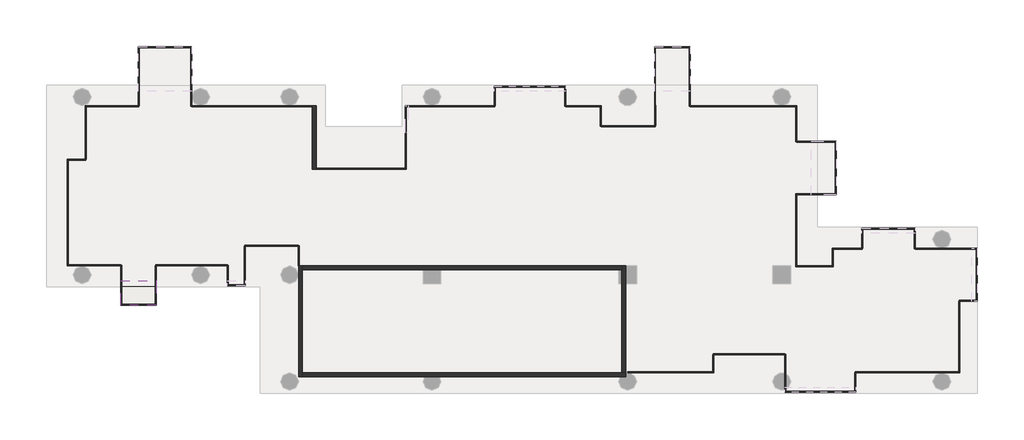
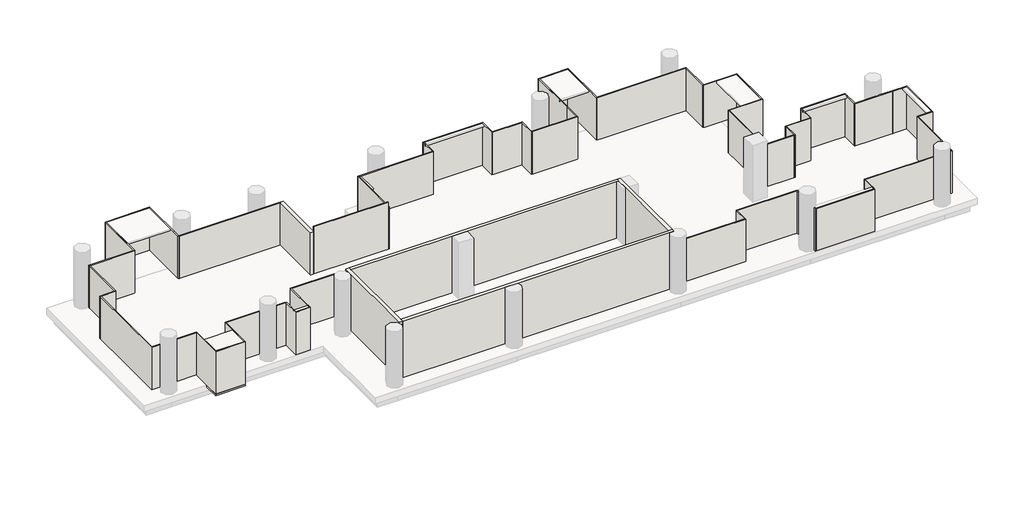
# One storey, part 1 of 2: 61 walls, 7 slabs.
"""IFC4 building model written with IfcOpenShell, lengths in millimetres."""

from ifc_helpers import new_model, si_unit, frame, origin, place, context, project, spatial, polyline, outline, extrude, faceted_brep, element, save

model = new_model("IFC4")

# Units and contexts
model_context = context("Model", 3, world=origin())
ifc_project = project(units=[si_unit("LENGTHUNIT", "METRE", prefix="MILLI")], contexts=[model_context])

# Site, building, storey
site = spatial("IfcSite", under=ifc_project)
building = spatial("IfcBuilding", under=site)
storey = spatial("IfcBuildingStorey", under=building, Name="TW-L 20", Elevation=71199.9999686)

# Slabs
placement = place(None, origin())
element("IfcSlab", 1, ObjectType="AJN-ARC-SLAB-10cm", at=placement, inside=storey, context=model_context, shape_type="SweptSolid", body=[
    extrude(outline(polyline([(105847.1743518, 28750.0), (104047.1743518, 28750.0), (104047.1743518, 29700.0), (105847.1743518, 29700.0), (105847.1743518, 28750.0)])), frame((0.0, 0.0, 71099.9999686), z_axis=(0.0, 0.0, 1.0), x_axis=(1.0, 0.0, 0.0)), (0.0, 0.0, 1.0), 100.0),
])
element("IfcSlab", 2, ObjectType="AJN-ARC-SLAB-10cm", at=placement, inside=storey, context=model_context, shape_type="SweptSolid", body=[
    extrude(outline(polyline([(105847.1743518, 28750.0), (104047.1743518, 28750.0), (104047.1743518, 30000.0), (105847.1743518, 30000.0), (105847.1743518, 28750.0)])), frame((0.0, 0.0, 73799.9999686), z_axis=(0.0, 0.0, 1.0), x_axis=(1.0, 0.0, 0.0)), (0.0, 0.0, 1.0), 100.0),
])
element("IfcSlab", 3, ObjectType="AJN-ARC-SLAB-10cm", at=placement, inside=storey, context=model_context, shape_type="SweptSolid", body=[
    extrude(outline(polyline([(110347.1743518, 29750.0), (109447.1743518, 29750.0), (109447.1743518, 30000.0), (110347.1743518, 30000.0), (110347.1743518, 29750.0)])), frame((0.0, 0.0, 73799.9999686), z_axis=(0.0, 0.0, 1.0), x_axis=(1.0, 0.0, 0.0)), (0.0, 0.0, 1.0), 100.0),
])
element("IfcSlab", 4, ObjectType="AJN-ARC-SLAB-10cm", at=placement, inside=storey, context=model_context, shape_type="SweptSolid", body=[
    extrude(outline(polyline([(110347.1743518, 29750.0), (109447.1743518, 29750.0), (109447.1743518, 30000.0), (110347.1743518, 30000.0), (110347.1743518, 29750.0)])), frame((0.0, 0.0, 73799.9999686), z_axis=(0.0, 0.0, 1.0), x_axis=(1.0, 0.0, 0.0)), (0.0, 0.0, 1.0), 100.0),
])
element("IfcSlab", 5, ObjectType="AJN-ARC-SLAB-10cm", at=placement, inside=storey, context=model_context, shape_type="SweptSolid", body=[
    extrude(outline(polyline([(110347.1743518, 29750.0), (109447.1743518, 29750.0), (109447.1743518, 30000.0), (110347.1743518, 30000.0), (110347.1743518, 29750.0)])), frame((0.0, 0.0, 73799.9999686), z_axis=(0.0, 0.0, 1.0), x_axis=(1.0, 0.0, 0.0)), (0.0, 0.0, 1.0), 100.0),
])
element("IfcSlab", 6, ObjectType="AJN-ARC-SLAB-10cm", at=placement, inside=storey, context=model_context, shape_type="SweptSolid", body=[
    extrude(outline(polyline([(110347.1743518, 29750.0), (109447.1743518, 29750.0), (109447.1743518, 30000.0), (110347.1743518, 30000.0), (110347.1743518, 29750.0)])), frame((0.0, 0.0, 73799.9999686), z_axis=(0.0, 0.0, 1.0), x_axis=(1.0, 0.0, 0.0)), (0.0, 0.0, 1.0), 100.0),
])
element("IfcSlab", 7, ObjectType="AJN-ARC-SLAB-10cm", at=placement, inside=storey, context=model_context, shape_type="SweptSolid", body=[
    extrude(outline(polyline([(110347.1743518, 29750.0), (109447.1743518, 29750.0), (109447.1743518, 30000.0), (110347.1743518, 30000.0), (110347.1743518, 29750.0)])), frame((0.0, 0.0, 73799.9999686), z_axis=(0.0, 0.0, 1.0), x_axis=(1.0, 0.0, 0.0)), (0.0, 0.0, 1.0), 100.0),
])

# Walls
element("IfcWall", 8, ObjectType="AJN-ARC-CONCRETE WALL-20cm", at=placement, inside=storey, context=model_context, shape_type="Brep", body=[
    faceted_brep([(113050.0, 30750.0, 74799.9999686), (113050.0, 30750.0, 71199.9999686), (113050.0, 25150.0, 71199.9999686), (113050.0, 25150.0, 74799.9999686), (113250.0, 30750.0, 71199.9999686), (113250.0, 30750.0, 74799.9999686), (113250.0, 30550.0, 74799.9999686), (113250.0, 25350.0, 74799.9999686), (113250.0, 25150.0, 74799.9999686), (113250.0, 25150.0, 71199.9999686), (113250.0, 25350.0, 71199.9999686), (113250.0, 30550.0, 71199.9999686), (113097.1743518, 30750.0, 71199.9999686)], [[[0, 1, 2, 3]], [[4, 5, 6, 7, 8, 9, 10, 11]], [[2, 1, 12, 4, 11, 10, 9]], [[0, 3, 8, 7, 6, 5]], [[3, 2, 9, 8]], [[0, 5, 4, 12, 1]]]),
])
element("IfcWall", 9, ObjectType="AJN-ARC-CONCRETE WALL-20cm", at=placement, inside=storey, context=model_context, shape_type="Brep", body=[
    faceted_brep([(113250.0, 25150.0, 71199.9999686), (119425.8342613, 25150.0, 71199.9999686), (120174.1657387, 25150.0, 71199.9999686), (129325.8342613, 25150.0, 71199.9999686), (129600.0, 25150.0, 71199.9999686), (129600.0, 25150.0, 74799.9999686), (129325.8342613, 25150.0, 74799.9999686), (120174.1657387, 25150.0, 74799.9999686), (119425.8342613, 25150.0, 74799.9999686), (113250.0, 25150.0, 74799.9999686), (113250.0, 25350.0, 71199.9999686), (113250.0, 25350.0, 74799.9999686), (129400.0, 25350.0, 74799.9999686), (129600.0, 25350.0, 74799.9999686), (129600.0, 25350.0, 71199.9999686), (129400.0, 25350.0, 71199.9999686), (129600.0, 25338.7482194, 71199.9999686), (129600.0, 25338.7482194, 74799.9999686)], [[[0, 1, 2, 3, 4, 5, 6, 7, 8, 9]], [[10, 11, 12, 13, 14, 15]], [[4, 3, 2, 1, 0, 10, 15, 14, 16]], [[9, 8, 7, 6, 5, 17, 13, 12, 11]], [[5, 4, 16, 14, 13, 17]], [[0, 9, 11, 10]]]),
])
element("IfcWall", 10, ObjectType="AJN-ARC-CONCRETE WALL-20cm", at=placement, inside=storey, context=model_context, shape_type="Brep", body=[
    faceted_brep([(129600.0, 25350.0, 71199.9999686), (129600.0, 29850.0, 71199.9999686), (129600.0, 30750.0, 71199.9999686), (129600.0, 30750.0, 74799.9999686), (129600.0, 29850.0, 74799.9999686), (129600.0, 25350.0, 74799.9999686), (129400.0, 25350.0, 71199.9999686), (129400.0, 25350.0, 74799.9999686), (129400.0, 29850.0, 74799.9999686), (129400.0, 30550.0, 74799.9999686), (129400.0, 30750.0, 74799.9999686), (129400.0, 30750.0, 71199.9999686), (129400.0, 30550.0, 71199.9999686), (129400.0, 29850.0, 71199.9999686)], [[[0, 1, 2, 3, 4, 5]], [[6, 7, 8, 9, 10, 11, 12, 13]], [[2, 1, 0, 6, 13, 12, 11]], [[5, 4, 3, 10, 9, 8, 7]], [[3, 2, 11, 10]], [[0, 5, 7, 6]]]),
])
element("IfcWall", 11, ObjectType="AJN-ARC-CONCRETE WALL-20cm", at=placement, inside=storey, context=model_context, shape_type="Brep", body=[
    faceted_brep([(129400.0, 30750.0, 71199.9999686), (113250.0, 30750.0, 71199.9999686), (113250.0, 30750.0, 74799.9999686), (129400.0, 30750.0, 74799.9999686), (129400.0, 30550.0, 71199.9999686), (129400.0, 30550.0, 74799.9999686), (129250.0, 30550.0, 74799.9999686), (120250.0, 30550.0, 74799.9999686), (119350.0, 30550.0, 74799.9999686), (113250.0, 30550.0, 74799.9999686), (113250.0, 30550.0, 71199.9999686), (119350.0, 30550.0, 71199.9999686), (120250.0, 30550.0, 71199.9999686), (129250.0, 30550.0, 71199.9999686)], [[[0, 1, 2, 3]], [[4, 5, 6, 7, 8, 9, 10, 11, 12, 13]], [[1, 0, 4, 13, 12, 11, 10]], [[3, 2, 9, 8, 7, 6, 5]], [[0, 3, 5, 4]], [[1, 10, 9, 2]]]),
])
element("IfcWall", 12, ObjectType="AJN-ARC-CONCRETE WALL-20cm", at=placement, inside=storey, context=model_context, shape_type="Brep", body=[
    faceted_brep([(113950.0, 35650.0, 71199.9999686), (113950.0, 38850.001152, 71199.9999686), (113950.0, 38850.001152, 73899.9999686), (113950.0, 35650.0, 73899.9999686), (113750.0, 35650.0, 71199.9999686), (113750.0, 35650.0, 73899.9999686), (113750.0, 38800.0011154, 73899.9999686), (113750.0, 38850.0011154, 73899.9999686), (113750.0, 38850.0011154, 71199.9999686), (113750.0, 38800.0011154, 71199.9999686)], [[[0, 1, 2, 3]], [[4, 5, 6, 7, 8, 9]], [[1, 0, 4, 9, 8]], [[3, 2, 7, 6, 5]], [[0, 3, 5, 4]], [[2, 1, 8, 7]]]),
])
element("IfcWall", 13, ObjectType="AJN-ARC-GLASS-50mm", at=placement, inside=storey, context=model_context, shape_type="SweptSolid", body=[
    extrude(outline(polyline([(107650.0, 38850.0), (113750.0, 38850.0011154), (113750.0, 38800.0011154), (107650.0000091, 38800.0), (107650.0, 38850.0)])), frame((0.0, 0.0, 71199.9999686), z_axis=(0.0, 0.0, 1.0), x_axis=(1.0, 0.0, 0.0)), (0.0, 0.0, 1.0), 2700.0),
])
element("IfcWall", 14, ObjectType="AJN-ARC-GLASS-50mm", at=placement, inside=storey, context=model_context, shape_type="Brep", body=[
    faceted_brep([(107650.0, 38824.9999954, 71199.9999686), (107650.0, 41850.0, 71199.9999686), (107650.0, 41850.0, 73899.9999686), (107650.0, 38824.9999954, 73899.9999686), (107600.0, 38824.9999954, 71199.9999686), (107600.0, 38824.9999954, 73899.9999686), (107600.0, 41800.0, 73899.9999686), (107600.0, 41850.0, 73899.9999686), (107600.0, 41850.0, 71199.9999686), (107600.0, 41800.0, 71199.9999686)], [[[0, 1, 2, 3]], [[4, 5, 6, 7, 8, 9]], [[1, 0, 4, 9, 8]], [[3, 2, 7, 6, 5]], [[0, 3, 5, 4]], [[2, 1, 8, 7]]]),
])
element("IfcWall", 15, ObjectType="AJN-ARC-GLASS-50mm", at=placement, inside=storey, context=model_context, shape_type="Brep", body=[
    faceted_brep([(107600.0, 41850.0, 71199.9999686), (104950.0, 41850.0, 71199.9999686), (104950.0, 41850.0, 73899.9999686), (107600.0, 41850.0, 73899.9999686), (107600.0, 41800.0, 71199.9999686), (107600.0, 41800.0, 73899.9999686), (105000.0, 41800.0, 73899.9999686), (104950.0, 41800.0, 73899.9999686), (104950.0, 41800.0, 71199.9999686), (105000.0, 41800.0, 71199.9999686)], [[[0, 1, 2, 3]], [[4, 5, 6, 7, 8, 9]], [[1, 0, 4, 9, 8]], [[3, 2, 7, 6, 5]], [[2, 1, 8, 7]], [[0, 3, 5, 4]]]),
])
element("IfcWall", 16, ObjectType="AJN-ARC-GLASS-50mm", at=placement, inside=storey, context=model_context, shape_type="SweptSolid", body=[
    extrude(outline(polyline([(104950.0, 38850.0), (104950.0, 41800.0), (105000.0, 41800.0), (105000.0, 38850.0), (104950.0, 38850.0)])), frame((0.0, 0.0, 71199.9999686), z_axis=(0.0, 0.0, 1.0), x_axis=(1.0, 0.0, 0.0)), (0.0, 0.0, 1.0), 2700.0),
])
element("IfcWall", 17, ObjectType="AJN-ARC-GLASS-50mm", at=placement, inside=storey, context=model_context, shape_type="Brep", body=[
    faceted_brep([(104975.000004, 38849.999996, 71199.9999686), (102250.0, 38850.0004316, 71199.9999686), (102250.0, 38850.0004316, 73899.9999686), (104975.000004, 38849.999996, 73899.9999686), (104974.999996, 38799.999996, 71199.9999686), (104974.999996, 38799.999996, 73899.9999686), (102300.0, 38800.0004237, 73899.9999686), (102250.0, 38800.0004316, 73899.9999686), (102250.0, 38800.0004316, 71199.9999686), (102300.0, 38800.0004237, 71199.9999686)], [[[0, 1, 2, 3]], [[4, 5, 6, 7, 8, 9]], [[1, 0, 4, 9, 8]], [[3, 2, 7, 6, 5]], [[0, 3, 5, 4]], [[2, 1, 8, 7]]]),
])
element("IfcWall", 18, ObjectType="AJN-ARC-GLASS-50mm", at=placement, inside=storey, context=model_context, shape_type="SweptSolid", body=[
    extrude(outline(polyline([(102250.0, 36150.0), (102250.0, 38800.0004316), (102300.0, 38800.0004237), (102300.0, 36150.0), (102250.0, 36150.0)])), frame((0.0, 0.0, 71199.9999686), z_axis=(0.0, 0.0, 1.0), x_axis=(1.0, 0.0, 0.0)), (0.0, 0.0, 1.0), 2700.0),
])
element("IfcWall", 19, ObjectType="AJN-ARC-GLASS-50mm", at=placement, inside=storey, context=model_context, shape_type="Brep", body=[
    faceted_brep([(102275.0, 36150.0, 71199.9999686), (101347.1743518, 36150.0, 71199.9999686), (101347.1743518, 36150.0, 73899.9999686), (102275.0, 36150.0, 73899.9999686), (102275.0, 36100.0, 71199.9999686), (102275.0, 36100.0, 73899.9999686), (101397.1743518, 36100.0, 73899.9999686), (101347.1743518, 36100.0, 73899.9999686), (101347.1743518, 36100.0, 71199.9999686), (101397.1743518, 36100.0, 71199.9999686)], [[[0, 1, 2, 3]], [[4, 5, 6, 7, 8, 9]], [[1, 0, 4, 9, 8]], [[3, 2, 7, 6, 5]], [[0, 3, 5, 4]], [[2, 1, 8, 7]]]),
])
element("IfcWall", 20, ObjectType="AJN-ARC-GLASS-50mm", at=placement, inside=storey, context=model_context, shape_type="Brep", body=[
    faceted_brep([(101347.1743518, 36100.0, 71199.9999686), (101347.1743518, 30750.0, 71199.9999686), (101347.1743518, 30750.0, 73899.9999686), (101347.1743518, 36100.0, 73899.9999686), (101397.1743518, 36100.0, 71199.9999686), (101397.1743518, 36100.0, 73899.9999686), (101397.1743518, 30800.0, 73899.9999686), (101397.1743518, 30750.0, 73899.9999686), (101397.1743518, 30750.0, 71199.9999686), (101397.1743518, 30800.0, 71199.9999686)], [[[0, 1, 2, 3]], [[4, 5, 6, 7, 8, 9]], [[1, 0, 4, 9, 8]], [[3, 2, 7, 6, 5]], [[2, 1, 8, 7]], [[0, 3, 5, 4]]]),
])
element("IfcWall", 21, ObjectType="AJN-ARC-GLASS-50mm", at=placement, inside=storey, context=model_context, shape_type="SweptSolid", body=[
    extrude(outline(polyline([(104047.1743518, 30750.0), (101397.1743518, 30750.0), (101397.1743518, 30800.0), (104047.1743518, 30800.0), (104047.1743518, 30750.0)])), frame((0.0, 0.0, 71199.9999686), z_axis=(0.0, 0.0, 1.0), x_axis=(1.0, 0.0, 0.0)), (0.0, 0.0, 1.0), 2700.0),
])
element("IfcWall", 22, ObjectType="AJN-ARC-GLASS-50mm", at=placement, inside=storey, context=model_context, shape_type="Brep", body=[
    faceted_brep([(104047.1743518, 30775.0, 71199.9999686), (104047.1743518, 28750.0, 71199.9999686), (104047.1743518, 28750.0, 73899.9999686), (104047.1743518, 30775.0, 73899.9999686), (104097.1743518, 30775.0, 71199.9999686), (104097.1743518, 30775.0, 73899.9999686), (104097.1743518, 28800.0, 73899.9999686), (104097.1743518, 28750.0, 73899.9999686), (104097.1743518, 28750.0, 71199.9999686), (104097.1743518, 28800.0, 71199.9999686)], [[[0, 1, 2, 3]], [[4, 5, 6, 7, 8, 9]], [[1, 0, 4, 9, 8]], [[3, 2, 7, 6, 5]], [[0, 3, 5, 4]], [[2, 1, 8, 7]]]),
])
element("IfcWall", 23, ObjectType="AJN-ARC-GLASS-50mm", at=placement, inside=storey, context=model_context, shape_type="Brep", body=[
    faceted_brep([(104097.1743518, 28750.0, 71199.9999686), (105847.1743518, 28750.0, 71199.9999686), (105847.1743518, 28750.0, 73899.9999686), (104097.1743518, 28750.0, 73899.9999686), (104097.1743518, 28800.0, 71199.9999686), (104097.1743518, 28800.0, 73899.9999686), (105797.1743518, 28800.0, 73899.9999686), (105847.1743518, 28800.0, 73899.9999686), (105847.1743518, 28800.0, 71199.9999686), (105797.1743518, 28800.0, 71199.9999686)], [[[0, 1, 2, 3]], [[4, 5, 6, 7, 8, 9]], [[1, 0, 4, 9, 8]], [[3, 2, 7, 6, 5]], [[2, 1, 8, 7]], [[0, 3, 5, 4]]]),
])
element("IfcWall", 24, ObjectType="AJN-ARC-GLASS-50mm", at=placement, inside=storey, context=model_context, shape_type="SweptSolid", body=[
    extrude(outline(polyline([(105847.1743518, 30750.0), (105847.1743518, 28800.0), (105797.1743518, 28800.0), (105797.1743518, 30750.0), (105847.1743518, 30750.0)])), frame((0.0, 0.0, 71199.9999686), z_axis=(0.0, 0.0, 1.0), x_axis=(1.0, 0.0, 0.0)), (0.0, 0.0, 1.0), 2700.0),
])
element("IfcWall", 25, ObjectType="AJN-ARC-GLASS-50mm", at=placement, inside=storey, context=model_context, shape_type="SweptSolid", body=[
    extrude(outline(polyline([(109447.1743518, 30750.0), (105822.1743518, 30750.0), (105822.1743518, 30800.0), (109447.1743518, 30800.0), (109447.1743518, 30750.0)])), frame((0.0, 0.0, 71199.9999686), z_axis=(0.0, 0.0, 1.0), x_axis=(1.0, 0.0, 0.0)), (0.0, 0.0, 1.0), 2700.0),
])
element("IfcWall", 26, ObjectType="AJN-ARC-GLASS-50mm", at=placement, inside=storey, context=model_context, shape_type="Brep", body=[
    faceted_brep([(109447.1743518, 30775.0, 71199.9999686), (109447.1743518, 29750.0, 71199.9999686), (109447.1743518, 29750.0, 73899.9999686), (109447.1743518, 30775.0, 73899.9999686), (109497.1743518, 30775.0, 71199.9999686), (109497.1743518, 30775.0, 73899.9999686), (109497.1743518, 29800.0, 73899.9999686), (109497.1743518, 29750.0, 73899.9999686), (109497.1743518, 29750.0, 71199.9999686), (109497.1743518, 29800.0, 71199.9999686)], [[[0, 1, 2, 3]], [[4, 5, 6, 7, 8, 9]], [[1, 0, 4, 9, 8]], [[3, 2, 7, 6, 5]], [[0, 3, 5, 4]], [[2, 1, 8, 7]]]),
])
element("IfcWall", 27, ObjectType="AJN-ARC-GLASS-50mm", at=placement, inside=storey, context=model_context, shape_type="Brep", body=[
    faceted_brep([(109497.1743518, 29750.0, 71199.9999686), (110347.1743518, 29750.0, 71199.9999686), (110347.1743518, 29750.0, 73899.9999686), (109497.1743518, 29750.0, 73899.9999686), (109497.1743518, 29800.0, 71199.9999686), (109497.1743518, 29800.0, 73899.9999686), (110297.1743518, 29800.0, 73899.9999686), (110347.1743518, 29800.0, 73899.9999686), (110347.1743518, 29800.0, 71199.9999686), (110297.1743518, 29800.0, 71199.9999686)], [[[0, 1, 2, 3]], [[4, 5, 6, 7, 8, 9]], [[1, 0, 4, 9, 8]], [[3, 2, 7, 6, 5]], [[2, 1, 8, 7]], [[0, 3, 5, 4]]]),
])
element("IfcWall", 28, ObjectType="AJN-ARC-GLASS-50mm", at=placement, inside=storey, context=model_context, shape_type="SweptSolid", body=[
    extrude(outline(polyline([(110347.1743518, 31750.0), (110347.1743518, 29800.0), (110297.1743518, 29800.0), (110297.1743518, 31750.0), (110347.1743518, 31750.0)])), frame((0.0, 0.0, 71199.9999686), z_axis=(0.0, 0.0, 1.0), x_axis=(1.0, 0.0, 0.0)), (0.0, 0.0, 1.0), 2700.0),
])
element("IfcWall", 29, ObjectType="AJN-ARC-GLASS-50mm", at=placement, inside=storey, context=model_context, shape_type="SweptSolid", body=[
    extrude(outline(polyline([(113047.1743518, 31750.0), (110322.1743518, 31750.0), (110322.1743518, 31800.0), (113047.1743518, 31800.0), (113047.1743518, 31750.0)])), frame((0.0, 0.0, 71199.9999686), z_axis=(0.0, 0.0, 1.0), x_axis=(1.0, 0.0, 0.0)), (0.0, 0.0, 1.0), 2700.0),
])
element("IfcWall", 30, ObjectType="AJN-ARC-GLASS-50mm", at=placement, inside=storey, context=model_context, shape_type="Brep", body=[
    faceted_brep([(113047.1743518, 31775.0, 71199.9999686), (113047.1743518, 30750.0, 71199.9999686), (113047.1743518, 30750.0, 73899.9999686), (113047.1743518, 31775.0, 73899.9999686), (113097.1743518, 31775.0, 71199.9999686), (113097.1743518, 31775.0, 73899.9999686), (113097.1743518, 30750.0, 73899.9999686), (113097.1743518, 30750.0, 71199.9999686), (113050.0, 30750.0, 71199.9999686)], [[[0, 1, 2, 3]], [[4, 5, 6, 7]], [[1, 0, 4, 7, 8]], [[3, 2, 6, 5]], [[0, 3, 5, 4]], [[2, 1, 8, 7, 6]]]),
])
element("IfcWall", 31, ObjectType="AJN-ARC-GLASS-50mm", at=placement, inside=storey, context=model_context, shape_type="Brep", body=[
    faceted_brep([(138250.0, 30700.0, 71199.9999686), (138250.0, 30750.0, 71199.9999686), (138250.0, 34350.0, 71199.9999686), (138250.0, 34350.0, 73899.9999686), (138250.0, 30750.0, 73899.9999686), (138250.0, 30700.0, 73899.9999686), (138200.0, 30700.0, 71199.9999686), (138200.0, 30700.0, 73899.9999686), (138200.0, 34350.0, 73899.9999686), (138200.0, 34350.0, 71199.9999686)], [[[0, 1, 2, 3, 4, 5]], [[6, 7, 8, 9]], [[2, 1, 0, 6, 9]], [[5, 4, 3, 8, 7]], [[0, 5, 7, 6]], [[3, 2, 9, 8]]]),
])
element("IfcWall", 32, ObjectType="AJN-ARC-GLASS-50mm", at=placement, inside=storey, context=model_context, shape_type="Brep", body=[
    faceted_brep([(138200.0, 34350.0, 71199.9999686), (138250.0, 34350.0, 71199.9999686), (140250.0, 34350.0, 71199.9999686), (140250.0, 34350.0, 73899.9999686), (138250.0, 34350.0, 73899.9999686), (138200.0, 34350.0, 73899.9999686), (138200.0, 34400.0, 71199.9999686), (138200.0, 34400.0, 73899.9999686), (140200.0, 34400.0, 73899.9999686), (140250.0, 34400.0, 73899.9999686), (140250.0, 34400.0, 71199.9999686), (140200.0, 34400.0, 71199.9999686)], [[[0, 1, 2, 3, 4, 5]], [[6, 7, 8, 9, 10, 11]], [[2, 1, 0, 6, 11, 10]], [[5, 4, 3, 9, 8, 7]], [[3, 2, 10, 9]], [[0, 5, 7, 6]]]),
])
element("IfcWall", 33, ObjectType="AJN-ARC-GLASS-50mm", at=placement, inside=storey, context=model_context, shape_type="Brep", body=[
    faceted_brep([(140250.0, 34400.0, 71199.9999686), (140250.0, 37050.0, 71199.9999686), (140250.0, 37050.0, 73899.9999686), (140250.0, 34400.0, 73899.9999686), (140200.0, 34400.0, 71199.9999686), (140200.0, 34400.0, 73899.9999686), (140200.0, 37000.0, 73899.9999686), (140200.0, 37050.0, 73899.9999686), (140200.0, 37050.0, 71199.9999686), (140200.0, 37000.0, 71199.9999686)], [[[0, 1, 2, 3]], [[4, 5, 6, 7, 8, 9]], [[1, 0, 4, 9, 8]], [[3, 2, 7, 6, 5]], [[2, 1, 8, 7]], [[0, 3, 5, 4]]]),
])
element("IfcWall", 34, ObjectType="AJN-ARC-GLASS-50mm", at=placement, inside=storey, context=model_context, shape_type="SweptSolid", body=[
    extrude(outline(polyline([(138250.0, 37050.0), (140200.0, 37050.0), (140200.0, 37000.0), (138250.0, 37000.0), (138250.0, 37050.0)])), frame((0.0, 0.0, 71199.9999686), z_axis=(0.0, 0.0, 1.0), x_axis=(1.0, 0.0, 0.0)), (0.0, 0.0, 1.0), 2700.0),
])
element("IfcWall", 35, ObjectType="AJN-ARC-GLASS-50mm", at=placement, inside=storey, context=model_context, shape_type="Brep", body=[
    faceted_brep([(138250.0, 37025.0, 71199.9999686), (138250.0, 38850.0, 71199.9999686), (138250.0, 38850.0, 73899.9999686), (138250.0, 37025.0, 73899.9999686), (138200.0, 37025.0, 71199.9999686), (138200.0, 37025.0, 73899.9999686), (138200.0, 38800.0, 73899.9999686), (138200.0, 38850.0, 73899.9999686), (138200.0, 38850.0, 71199.9999686), (138200.0, 38800.0, 71199.9999686)], [[[0, 1, 2, 3]], [[4, 5, 6, 7, 8, 9]], [[1, 0, 4, 9, 8]], [[3, 2, 7, 6, 5]], [[0, 3, 5, 4]], [[2, 1, 8, 7]]]),
])
element("IfcWall", 36, ObjectType="AJN-ARC-GLASS-50mm", at=placement, inside=storey, context=model_context, shape_type="SweptSolid", body=[
    extrude(outline(polyline([(132860.049155, 38850.0), (138200.0, 38850.0), (138200.0, 38800.0), (132860.049155, 38800.0), (132860.049155, 38850.0)])), frame((0.0, 0.0, 71199.9999686), z_axis=(0.0, 0.0, 1.0), x_axis=(1.0, 0.0, 0.0)), (0.0, 0.0, 1.0), 2700.0),
])
element("IfcWall", 37, ObjectType="AJN-ARC-GLASS-50mm", at=placement, inside=storey, context=model_context, shape_type="Brep", body=[
    faceted_brep([(132860.049155, 38825.0, 71199.9999686), (132860.049155, 41850.0, 71199.9999686), (132860.049155, 41850.0, 73899.9999686), (132860.049155, 38825.0, 73899.9999686), (132810.049155, 38825.0, 71199.9999686), (132810.049155, 38825.0, 73899.9999686), (132810.049155, 41800.0, 73899.9999686), (132810.049155, 41850.0, 73899.9999686), (132810.049155, 41850.0, 71199.9999686), (132810.049155, 41800.0, 71199.9999686)], [[[0, 1, 2, 3]], [[4, 5, 6, 7, 8, 9]], [[1, 0, 4, 9, 8]], [[3, 2, 7, 6, 5]], [[0, 3, 5, 4]], [[2, 1, 8, 7]]]),
])
element("IfcWall", 38, ObjectType="AJN-ARC-GLASS-50mm", at=placement, inside=storey, context=model_context, shape_type="Brep", body=[
    faceted_brep([(132810.049155, 41850.0, 71199.9999686), (131060.049155, 41850.0, 71199.9999686), (131060.049155, 41850.0, 73899.9999686), (132810.049155, 41850.0, 73899.9999686), (132810.049155, 41800.0, 71199.9999686), (132810.049155, 41800.0, 73899.9999686), (131110.049155, 41800.0, 73899.9999686), (131060.049155, 41800.0, 73899.9999686), (131060.049155, 41800.0, 71199.9999686), (131110.049155, 41800.0, 71199.9999686)], [[[0, 1, 2, 3]], [[4, 5, 6, 7, 8, 9]], [[1, 0, 4, 9, 8]], [[3, 2, 7, 6, 5]], [[2, 1, 8, 7]], [[0, 3, 5, 4]]]),
])
element("IfcWall", 39, ObjectType="AJN-ARC-GLASS-50mm", at=placement, inside=storey, context=model_context, shape_type="SweptSolid", body=[
    extrude(outline(polyline([(131060.049155, 38875.0), (131060.049155, 41800.0), (131110.049155, 41800.0), (131110.049155, 38875.0), (131060.049155, 38875.0)])), frame((0.0, 0.0, 71199.9999686), z_axis=(0.0, 0.0, 1.0), x_axis=(1.0, 0.0, 0.0)), (0.0, 0.0, 1.0), 2700.0),
])
element("IfcWall", 40, ObjectType="AJN-ARC-GLASS-50mm", at=placement, inside=storey, context=model_context, shape_type="SweptSolid", body=[
    extrude(outline(polyline([(131066.0921429, 37850.0), (131066.0921429, 38875.0), (131116.0921429, 38875.0), (131116.0921429, 37850.0), (131066.0921429, 37850.0)])), frame((0.0, 0.0, 71199.9999686), z_axis=(0.0, 0.0, 1.0), x_axis=(1.0, 0.0, 0.0)), (0.0, 0.0, 1.0), 2700.0),
])
element("IfcWall", 41, ObjectType="AJN-ARC-GLASS-50mm", at=placement, inside=storey, context=model_context, shape_type="SweptSolid", body=[
    extrude(outline(polyline([(128360.049155, 37850.0), (131091.0921429, 37850.0), (131091.0921429, 37800.0), (128360.049155, 37800.0), (128360.049155, 37850.0)])), frame((0.0, 0.0, 71199.9999686), z_axis=(0.0, 0.0, 1.0), x_axis=(1.0, 0.0, 0.0)), (0.0, 0.0, 1.0), 2700.0),
])
element("IfcWall", 42, ObjectType="AJN-ARC-GLASS-50mm", at=placement, inside=storey, context=model_context, shape_type="Brep", body=[
    faceted_brep([(128360.049155, 37825.0, 71199.9999686), (128360.049155, 38850.0, 71199.9999686), (128360.049155, 38850.0, 73899.9999686), (128360.049155, 37825.0, 73899.9999686), (128310.049155, 37825.0, 71199.9999686), (128310.049155, 37825.0, 73899.9999686), (128310.049155, 38800.0, 73899.9999686), (128310.049155, 38850.0, 73899.9999686), (128310.049155, 38850.0, 71199.9999686), (128310.049155, 38800.0, 71199.9999686)], [[[0, 1, 2, 3]], [[4, 5, 6, 7, 8, 9]], [[1, 0, 4, 9, 8]], [[3, 2, 7, 6, 5]], [[0, 3, 5, 4]], [[2, 1, 8, 7]]]),
])
element("IfcWall", 43, ObjectType="AJN-ARC-GLASS-50mm", at=placement, inside=storey, context=model_context, shape_type="SweptSolid", body=[
    extrude(outline(polyline([(126559.0442395, 38850.0), (128310.049155, 38850.0), (128310.049155, 38800.0), (126559.0442395, 38800.0), (126559.0442395, 38850.0)])), frame((0.0, 0.0, 71199.9999686), z_axis=(0.0, 0.0, 1.0), x_axis=(1.0, 0.0, 0.0)), (0.0, 0.0, 1.0), 2700.0),
])
element("IfcWall", 44, ObjectType="AJN-ARC-GLASS-50mm", at=placement, inside=storey, context=model_context, shape_type="Brep", body=[
    faceted_brep([(126559.0442395, 38825.0, 71199.9999686), (126559.0442395, 39850.0, 71199.9999686), (126559.0442395, 39850.0, 73899.9999686), (126559.0442395, 38825.0, 73899.9999686), (126509.0442395, 38825.0, 71199.9999686), (126509.0442395, 38825.0, 73899.9999686), (126509.0442395, 39800.0, 73899.9999686), (126509.0442395, 39850.0, 73899.9999686), (126509.0442395, 39850.0, 71199.9999686), (126509.0442395, 39800.0, 71199.9999686)], [[[0, 1, 2, 3]], [[4, 5, 6, 7, 8, 9]], [[1, 0, 4, 9, 8]], [[3, 2, 7, 6, 5]], [[0, 3, 5, 4]], [[2, 1, 8, 7]]]),
])
element("IfcWall", 45, ObjectType="AJN-ARC-GLASS-50mm", at=placement, inside=storey, context=model_context, shape_type="Brep", body=[
    faceted_brep([(126509.0442395, 39850.0, 71199.9999686), (122959.0442395, 39850.0, 71199.9999686), (122959.0442395, 39850.0, 73899.9999686), (126509.0442395, 39850.0, 73899.9999686), (126509.0442395, 39800.0, 71199.9999686), (126509.0442395, 39800.0, 73899.9999686), (123009.0442395, 39800.0, 73899.9999686), (122959.0442395, 39800.0, 73899.9999686), (122959.0442395, 39800.0, 71199.9999686), (123009.0442395, 39800.0, 71199.9999686)], [[[0, 1, 2, 3]], [[4, 5, 6, 7, 8, 9]], [[1, 0, 4, 9, 8]], [[3, 2, 7, 6, 5]], [[2, 1, 8, 7]], [[0, 3, 5, 4]]]),
])
element("IfcWall", 46, ObjectType="AJN-ARC-GLASS-50mm", at=placement, inside=storey, context=model_context, shape_type="SweptSolid", body=[
    extrude(outline(polyline([(122959.0442395, 38850.0), (122959.0442395, 39800.0), (123009.0442395, 39800.0), (123009.0442395, 38850.0), (122959.0442395, 38850.0)])), frame((0.0, 0.0, 71199.9999686), z_axis=(0.0, 0.0, 1.0), x_axis=(1.0, 0.0, 0.0)), (0.0, 0.0, 1.0), 2700.0),
])
element("IfcWall", 47, ObjectType="AJN-ARC-GLASS-50mm", at=placement, inside=storey, context=model_context, shape_type="Brep", body=[
    faceted_brep([(122984.0442395, 38850.0, 71199.9999686), (118450.0, 38850.0, 71199.9999686), (118450.0, 38850.0, 73899.9999686), (122984.0442395, 38850.0, 73899.9999686), (122984.0442395, 38800.0, 71199.9999686), (122984.0442395, 38800.0, 73899.9999686), (118500.0, 38800.0, 73899.9999686), (118450.0, 38800.0, 73899.9999686), (118450.0, 38800.0, 71199.9999686), (118500.0, 38800.0, 71199.9999686)], [[[0, 1, 2, 3]], [[4, 5, 6, 7, 8, 9]], [[1, 0, 4, 9, 8]], [[3, 2, 7, 6, 5]], [[0, 3, 5, 4]], [[2, 1, 8, 7]]]),
])
element("IfcWall", 48, ObjectType="AJN-ARC-GLASS-50mm", at=placement, inside=storey, context=model_context, shape_type="Brep", body=[
    faceted_brep([(129714.068817, 25350.0, 71199.9999686), (134050.3335778, 25350.0, 71199.9999686), (134050.3335778, 25350.0, 73899.9999686), (129714.068817, 25350.0, 73899.9999686), (129714.068817, 25400.0, 71199.9999686), (129714.068817, 25400.0, 73899.9999686), (134000.3335778, 25400.0, 73899.9999686), (134050.3335778, 25400.0, 73899.9999686), (134050.3335778, 25400.0, 71199.9999686), (134000.3335778, 25400.0, 71199.9999686)], [[[0, 1, 2, 3]], [[4, 5, 6, 7, 8, 9]], [[1, 0, 4, 9, 8]], [[3, 2, 7, 6, 5]], [[0, 3, 5, 4]], [[2, 1, 8, 7]]]),
])
element("IfcWall", 49, ObjectType="AJN-ARC-GLASS-50mm", at=placement, inside=storey, context=model_context, shape_type="SweptSolid", body=[
    extrude(outline(polyline([(134050.3335778, 26249.9994797), (134050.3335778, 25400.0), (134000.3335778, 25400.0), (134000.3335778, 26249.9994797), (134050.3335778, 26249.9994797)])), frame((0.0, 0.0, 71199.9999686), z_axis=(0.0, 0.0, 1.0), x_axis=(1.0, 0.0, 0.0)), (0.0, 0.0, 1.0), 2700.0),
])
element("IfcWall", 50, ObjectType="AJN-ARC-GLASS-50mm", at=placement, inside=storey, context=model_context, shape_type="SweptSolid", body=[
    extrude(outline(polyline([(137650.3356812, 26249.9994797), (134025.3335778, 26249.9994797), (134025.3335778, 26299.9994797), (137650.3356812, 26299.9994797), (137650.3356812, 26249.9994797)])), frame((0.0, 0.0, 71199.9999686), z_axis=(0.0, 0.0, 1.0), x_axis=(1.0, 0.0, 0.0)), (0.0, 0.0, 1.0), 2700.0),
])
element("IfcWall", 51, ObjectType="AJN-ARC-GLASS-50mm", at=placement, inside=storey, context=model_context, shape_type="SweptSolid", body=[
    extrude(outline(polyline([(137650.3335787, 25350.0000292), (137650.3357396, 26274.9995381), (137700.3357396, 26274.9994213), (137700.3335787, 25349.9999124), (137650.3335787, 25350.0000292)])), frame((0.0, 0.0, 71199.9999686), z_axis=(0.0, 0.0, 1.0), x_axis=(1.0, 0.0, 0.0)), (0.0, 0.0, 1.0), 2700.0),
])
element("IfcWall", 52, ObjectType="AJN-ARC-GLASS-50mm", at=placement, inside=storey, context=model_context, shape_type="Brep", body=[
    faceted_brep([(137650.3335787, 25349.9999708, 71199.9999686), (137650.3335787, 25324.1459833, 71199.9999686), (137650.3335787, 24475.8540167, 71199.9999686), (137650.3335787, 24350.0, 71199.9999686), (137650.3335787, 24350.0, 73899.9999686), (137650.3335787, 24475.8540167, 73899.9999686), (137650.3335787, 25324.1459833, 73899.9999686), (137650.3335787, 25349.9999708, 73899.9999686), (137700.3335787, 25349.9999708, 71199.9999686), (137700.3335787, 25349.9999708, 73899.9999686), (137700.3335787, 25302.947214, 73899.9999686), (137700.3335787, 24497.052786, 73899.9999686), (137700.3335787, 24400.0, 73899.9999686), (137700.3335787, 24350.0, 73899.9999686), (137700.3335787, 24350.0, 71199.9999686), (137700.3335787, 24400.0, 71199.9999686), (137700.3335787, 24497.052786, 71199.9999686), (137700.3335787, 25302.947214, 71199.9999686)], [[[0, 1, 2, 3, 4, 5, 6, 7]], [[8, 9, 10, 11, 12, 13, 14, 15, 16, 17]], [[3, 2, 1, 0, 8, 17, 16, 15, 14]], [[7, 6, 5, 4, 13, 12, 11, 10, 9]], [[0, 7, 9, 8]], [[4, 3, 14, 13]]]),
])
element("IfcWall", 53, ObjectType="AJN-ARC-GLASS-50mm", at=placement, inside=storey, context=model_context, shape_type="Brep", body=[
    faceted_brep([(137700.3335787, 24350.0, 71199.9999686), (141250.3335787, 24350.0, 71199.9999686), (141250.3335787, 24350.0, 73899.9999686), (137700.3335787, 24350.0, 73899.9999686), (137700.3335787, 24400.0, 71199.9999686), (137700.3335787, 24400.0, 73899.9999686), (141200.3335787, 24400.0, 73899.9999686), (141250.3335787, 24400.0, 73899.9999686), (141250.3335787, 24400.0, 71199.9999686), (141200.3335787, 24400.0, 71199.9999686)], [[[0, 1, 2, 3]], [[4, 5, 6, 7, 8, 9]], [[1, 0, 4, 9, 8]], [[3, 2, 7, 6, 5]], [[2, 1, 8, 7]], [[0, 3, 5, 4]]]),
])
element("IfcWall", 54, ObjectType="AJN-ARC-GLASS-50mm", at=placement, inside=storey, context=model_context, shape_type="SweptSolid", body=[
    extrude(outline(polyline([(141250.3335787, 25350.0), (141250.3335787, 24400.0), (141200.3335787, 24400.0), (141200.3335787, 25350.0), (141250.3335787, 25350.0)])), frame((0.0, 0.0, 71199.9999686), z_axis=(0.0, 0.0, 1.0), x_axis=(1.0, 0.0, 0.0)), (0.0, 0.0, 1.0), 2700.0),
])
element("IfcWall", 55, ObjectType="AJN-ARC-GLASS-50mm", at=placement, inside=storey, context=model_context, shape_type="Brep", body=[
    faceted_brep([(141225.3335787, 25350.0, 71199.9999686), (146497.681474, 25350.0, 71199.9999686), (146497.681474, 25350.0, 73899.9999686), (141225.3335787, 25350.0, 73899.9999686), (141225.3335787, 25400.0, 71199.9999686), (141225.3335787, 25400.0, 73899.9999686), (146447.681474, 25400.0, 73899.9999686), (146497.681474, 25400.0, 73899.9999686), (146497.681474, 25400.0, 71199.9999686), (146447.681474, 25400.0, 71199.9999686)], [[[0, 1, 2, 3]], [[4, 5, 6, 7, 8, 9]], [[1, 0, 4, 9, 8]], [[3, 2, 7, 6, 5]], [[0, 3, 5, 4]], [[2, 1, 8, 7]]]),
])
element("IfcWall", 56, ObjectType="AJN-ARC-GLASS-50mm", at=placement, inside=storey, context=model_context, shape_type="SweptSolid", body=[
    extrude(outline(polyline([(146497.681474, 28951.6593424), (146497.681474, 25400.0), (146447.681474, 25400.0), (146447.681474, 28951.6593424), (146497.681474, 28951.6593424)])), frame((0.0, 0.0, 71199.9999686), z_axis=(0.0, 0.0, 1.0), x_axis=(1.0, 0.0, 0.0)), (0.0, 0.0, 1.0), 2700.0),
])
element("IfcWall", 57, ObjectType="AJN-ARC-GLASS-50mm", at=placement, inside=storey, context=model_context, shape_type="Brep", body=[
    faceted_brep([(146472.681474, 28951.6593424, 71199.9999686), (147397.681474, 28951.6593424, 71199.9999686), (147397.681474, 28951.6593424, 73899.9999686), (146472.681474, 28951.6593424, 73899.9999686), (146472.681474, 29001.6593424, 71199.9999686), (146472.681474, 29001.6593424, 73899.9999686), (147347.681474, 29001.6593424, 73899.9999686), (147397.681474, 29001.6593424, 73899.9999686), (147397.681474, 29001.6593424, 71199.9999686), (147347.681474, 29001.6593424, 71199.9999686)], [[[0, 1, 2, 3]], [[4, 5, 6, 7, 8, 9]], [[1, 0, 4, 9, 8]], [[3, 2, 7, 6, 5]], [[0, 3, 5, 4]], [[2, 1, 8, 7]]]),
])
element("IfcWall", 58, ObjectType="AJN-ARC-GLASS-50mm", at=placement, inside=storey, context=model_context, shape_type="Brep", body=[
    faceted_brep([(147397.681474, 29001.6593424, 71199.9999686), (147397.681474, 31651.6593424, 71199.9999686), (147397.681474, 31651.6593424, 73899.9999686), (147397.681474, 29001.6593424, 73899.9999686), (147347.681474, 29001.6593424, 71199.9999686), (147347.681474, 29001.6593424, 73899.9999686), (147347.681474, 31601.6593424, 73899.9999686), (147347.681474, 31651.6593424, 73899.9999686), (147347.681474, 31651.6593424, 71199.9999686), (147347.681474, 31601.6593424, 71199.9999686)], [[[0, 1, 2, 3]], [[4, 5, 6, 7, 8, 9]], [[1, 0, 4, 9, 8]], [[3, 2, 7, 6, 5]], [[2, 1, 8, 7]], [[0, 3, 5, 4]]]),
])
element("IfcWall", 59, ObjectType="AJN-ARC-GLASS-50mm", at=placement, inside=storey, context=model_context, shape_type="SweptSolid", body=[
    extrude(outline(polyline([(146497.681474, 31651.6593424), (147347.681474, 31651.6593424), (147347.681474, 31601.6593424), (146497.681474, 31601.6593424), (146497.681474, 31651.6593424)])), frame((0.0, 0.0, 71199.9999686), z_axis=(0.0, 0.0, 1.0), x_axis=(1.0, 0.0, 0.0)), (0.0, 0.0, 1.0), 2700.0),
])
element("IfcWall", 60, ObjectType="AJN-ARC-GLASS-50mm", at=placement, inside=storey, context=model_context, shape_type="Brep", body=[
    faceted_brep([(146497.681474, 31651.6593424, 71199.9999686), (145638.6089983, 31651.6593424, 71199.9999686), (145561.3910017, 31651.6593424, 71199.9999686), (144257.0344085, 31651.6593424, 71199.9999686), (144257.0344085, 31651.6593424, 73899.9999686), (145561.3910017, 31651.6593424, 73899.9999686), (145638.6089983, 31651.6593424, 73899.9999686), (146497.681474, 31651.6593424, 73899.9999686), (146497.681474, 31601.6593424, 71199.9999686), (146497.681474, 31601.6593424, 73899.9999686), (144257.0344085, 31601.6593424, 73899.9999686), (144257.0344085, 31601.6593424, 71199.9999686)], [[[0, 1, 2, 3, 4, 5, 6, 7]], [[8, 9, 10, 11]], [[3, 2, 1, 0, 8, 11]], [[4, 3, 11, 10]], [[7, 6, 5, 4, 10, 9]], [[0, 7, 9, 8]]]),
])
element("IfcWall", 61, ObjectType="AJN-ARC-GLASS-50mm", at=placement, inside=storey, context=model_context, shape_type="Brep", body=[
    faceted_brep([(144257.0344085, 31626.6593424, 71199.9999686), (144257.0344085, 32651.6593424, 71199.9999686), (144257.0344085, 32651.6593424, 73899.9999686), (144257.0344085, 31626.6593424, 73899.9999686), (144207.0344085, 31626.6593424, 71199.9999686), (144207.0344085, 31626.6593424, 73899.9999686), (144207.0344085, 32601.6593424, 73899.9999686), (144207.0344085, 32651.6593424, 73899.9999686), (144207.0344085, 32651.6593424, 71199.9999686), (144207.0344085, 32601.6593424, 71199.9999686)], [[[0, 1, 2, 3]], [[4, 5, 6, 7, 8, 9]], [[1, 0, 4, 9, 8]], [[3, 2, 7, 6, 5]], [[0, 3, 5, 4]], [[2, 1, 8, 7]]]),
])
element("IfcWall", 62, ObjectType="AJN-ARC-GLASS-50mm", at=placement, inside=storey, context=model_context, shape_type="Brep", body=[
    faceted_brep([(144207.0344085, 32651.6593424, 71199.9999686), (141557.0344085, 32651.6593424, 71199.9999686), (141557.0344085, 32651.6593424, 73899.9999686), (144207.0344085, 32651.6593424, 73899.9999686), (144207.0344085, 32601.6593424, 71199.9999686), (144207.0344085, 32601.6593424, 73899.9999686), (141607.0344085, 32601.6593424, 73899.9999686), (141557.0344085, 32601.6593424, 73899.9999686), (141557.0344085, 32601.6593424, 71199.9999686), (141607.0344085, 32601.6593424, 71199.9999686)], [[[0, 1, 2, 3]], [[4, 5, 6, 7, 8, 9]], [[1, 0, 4, 9, 8]], [[3, 2, 7, 6, 5]], [[2, 1, 8, 7]], [[0, 3, 5, 4]]]),
])
element("IfcWall", 63, ObjectType="AJN-ARC-GLASS-50mm", at=placement, inside=storey, context=model_context, shape_type="SweptSolid", body=[
    extrude(outline(polyline([(141557.0344085, 31651.6593424), (141557.0344085, 32601.6593424), (141607.0344085, 32601.6593424), (141607.0344085, 31651.6593424), (141557.0344085, 31651.6593424)])), frame((0.0, 0.0, 71199.9999686), z_axis=(0.0, 0.0, 1.0), x_axis=(1.0, 0.0, 0.0)), (0.0, 0.0, 1.0), 2700.0),
])
element("IfcWall", 64, ObjectType="AJN-ARC-GLASS-50mm", at=placement, inside=storey, context=model_context, shape_type="Brep", body=[
    faceted_brep([(141582.0344085, 31651.6593424, 71199.9999686), (140050.0, 31651.6593424, 71199.9999686), (140050.0, 31651.6593424, 73899.9999686), (141582.0344085, 31651.6593424, 73899.9999686), (141582.0344085, 31601.6593424, 71199.9999686), (141582.0344085, 31601.6593424, 73899.9999686), (140100.0, 31601.6593424, 73899.9999686), (140050.0, 31601.6593424, 73899.9999686), (140050.0, 31601.6593424, 71199.9999686), (140100.0, 31601.6593424, 71199.9999686)], [[[0, 1, 2, 3]], [[4, 5, 6, 7, 8, 9]], [[1, 0, 4, 9, 8]], [[3, 2, 7, 6, 5]], [[0, 3, 5, 4]], [[2, 1, 8, 7]]]),
])
element("IfcWall", 65, ObjectType="AJN-ARC-GLASS-50mm", at=placement, inside=storey, context=model_context, shape_type="Brep", body=[
    faceted_brep([(140050.0, 31601.6593424, 71199.9999686), (140050.0, 30750.0, 71199.9999686), (140050.0, 30700.0, 71199.9999686), (140050.0, 30700.0, 73899.9999686), (140050.0, 30750.0, 73899.9999686), (140050.0, 31601.6593424, 73899.9999686), (140100.0, 31601.6593424, 71199.9999686), (140100.0, 31601.6593424, 73899.9999686), (140100.0, 30700.0, 73899.9999686), (140100.0, 30700.0, 71199.9999686)], [[[0, 1, 2, 3, 4, 5]], [[6, 7, 8, 9]], [[2, 1, 0, 6, 9]], [[5, 4, 3, 8, 7]], [[0, 5, 7, 6]], [[3, 2, 9, 8]]]),
])
element("IfcWall", 66, ObjectType="AJN-ARC-GLASS-50mm", at=placement, inside=storey, context=model_context, shape_type="SweptSolid", body=[
    extrude(outline(polyline([(138250.0, 30750.0), (140050.0, 30750.0), (140050.0, 30700.0), (138250.0, 30700.0), (138250.0, 30750.0)])), frame((0.0, 0.0, 71199.9999686), z_axis=(0.0, 0.0, 1.0), x_axis=(1.0, 0.0, 0.0)), (0.0, 0.0, 1.0), 2700.0),
])
element("IfcWall", 67, ObjectType="AJN-ARC-GLASS-50mm", at=placement, inside=storey, context=model_context, shape_type="SweptSolid", body=[
    extrude(outline(polyline([(118450.0, 35650.0), (118450.0, 38800.0), (118500.0, 38800.0), (118500.0, 35650.0), (118450.0, 35650.0)])), frame((0.0, 0.0, 71199.9999686), z_axis=(0.0, 0.0, 1.0), x_axis=(1.0, 0.0, 0.0)), (0.0, 0.0, 1.0), 2700.0),
])
element("IfcWall", 68, ObjectType="AJN-ARC-GLASS-50mm", at=placement, inside=storey, context=model_context, shape_type="SweptSolid", body=[
    extrude(outline(polyline([(118450.0, 35650.0), (113950.0, 35650.0), (113950.0, 35700.0), (118450.0, 35700.0), (118450.0, 35650.0)])), frame((0.0, 0.0, 71199.9999686), z_axis=(0.0, 0.0, 1.0), x_axis=(1.0, 0.0, 0.0)), (0.0, 0.0, 1.0), 3000.0),
])

save(model, "model.ifc")
